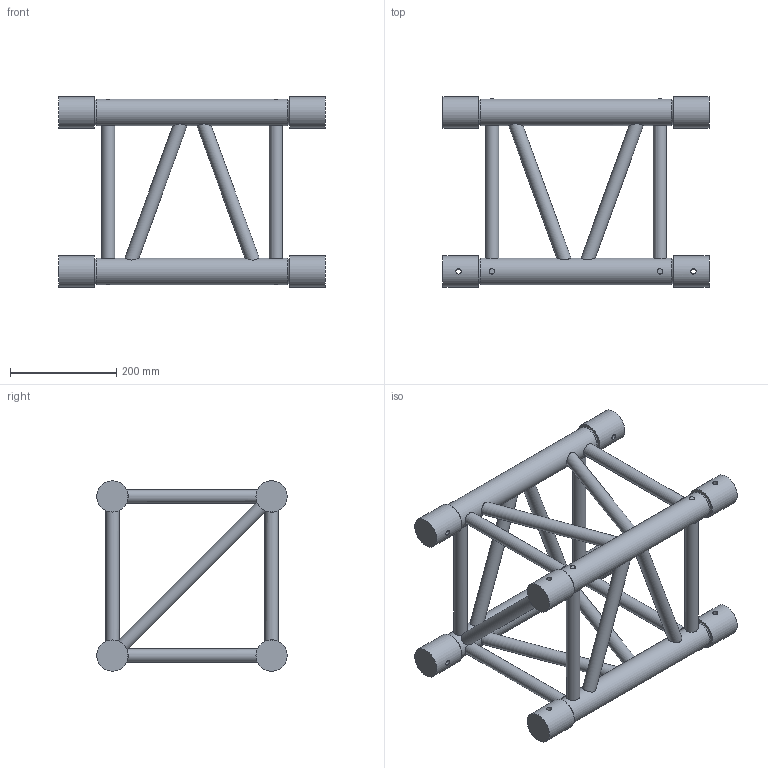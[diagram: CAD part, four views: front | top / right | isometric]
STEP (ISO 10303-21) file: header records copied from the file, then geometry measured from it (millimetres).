
FILE_DESCRIPTION(/* description */ (''),/* implementation_level */ '2;1');
FILE_NAME(/* name */ 'C:\Users\corina\Desktop\symbols (stephan)\111110057.stp',/* time_stamp */ '2015-10-21T08:54:49+03:00',/* author */ ('corina.carstoveanu'),/* organization */ (''),/* preprocessor_version */ 'ST-DEVELOPER v15.6',/* originating_system */ 'Autodesk Inventor 2015',/* authorisation */ '');
FILE_SCHEMA (('AUTOMOTIVE_DESIGN { 1 0 10303 214 3 1 1 }'));
Length unit declared in the file: millimetre
Products named in the file (1): 260027534
Bounding box: 500 x 357.8 x 357.8 mm (x, y, z)
Volume: 6671578.3 mm3; surface area: 760404.5 mm2
Topology: 1 solids, 3 shells, 176 faces, 386 edges, 226 vertices
Faces by surface type: plane 92, cylinder 76, cone 8
Full cylindrical faces by diameter (mm): 10 x8, 25 x18, 50 x4, 58.8 x8
Entity records: 6122 total; most frequent: CARTESIAN_POINT 2305, DIRECTION 748, ORIENTED_EDGE 664, AXIS2_PLACEMENT_3D 355, EDGE_CURVE 306, EDGE_LOOP 292, VERTEX_POINT 208, STYLED_ITEM 171
